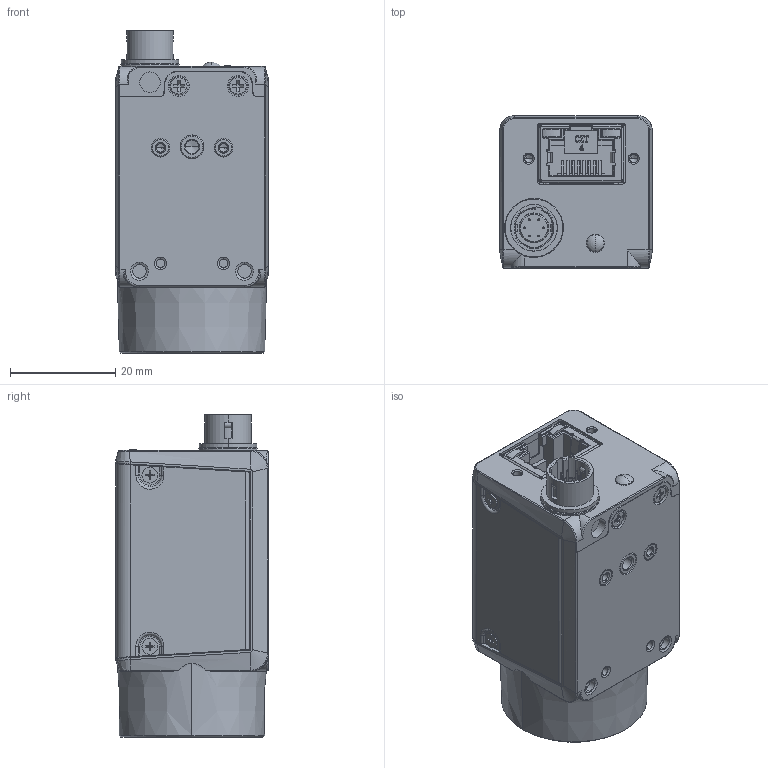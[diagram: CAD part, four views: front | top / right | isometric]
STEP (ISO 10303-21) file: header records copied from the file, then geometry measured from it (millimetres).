
FILE_DESCRIPTION((''),'2;1');
FILE_NAME('DH3-0195-6235_1_1','2023-11-27T09:04:20',('331929'),(''),'CREO PARAMETRIC BY PTC INC, 2020184','CREO PARAMETRIC BY PTC INC, 2020184','');
FILE_SCHEMA(('CONFIG_CONTROL_DESIGN','SHAPE_APPEARANCE_LAYERS_GROUPS'));
Products named in the file (1): DH3-0195-6235_1_1
Bounding box: 29 x 29.05 x 61.4 mm (x, y, z)
Volume: 22827.5 mm3; surface area: 22362.9 mm2
Topology: 1 solids, 11 shells, 1934 faces, 5333 edges, 3364 vertices
Faces by surface type: plane 1021, cylinder 507, bspline 177, cone 134, extrusion 47, torus 40, sphere 8
Entity records: 92073 total; most frequent: CARTESIAN_POINT 26416, ORIENTED_EDGE 10630, DIRECTION 8998, PRESENTATION_STYLE_ASSIGNMENT 5519, STYLED_ITEM 5342, CURVE_STYLE 5315, EDGE_CURVE 5315, VECTOR 3536
